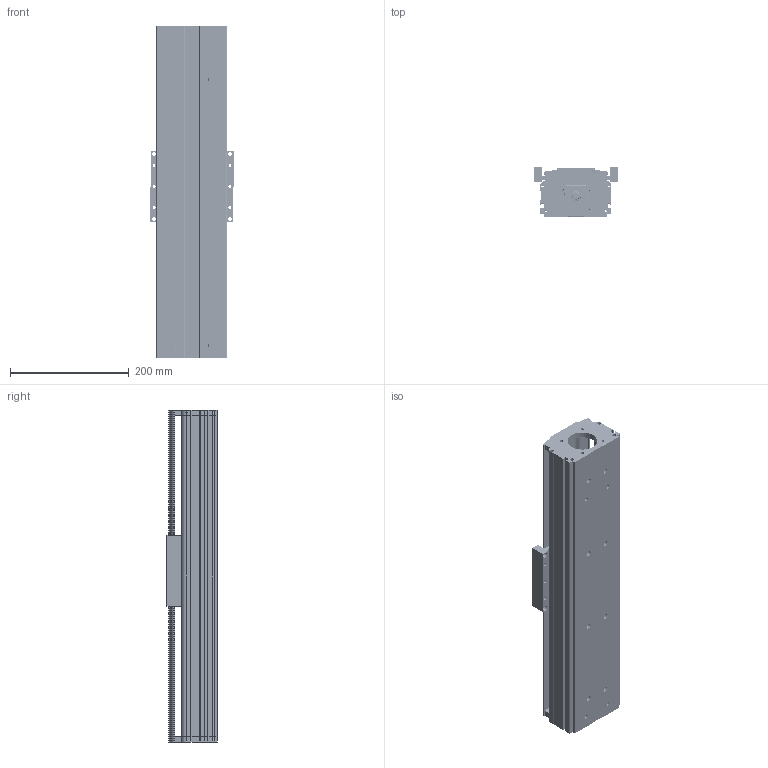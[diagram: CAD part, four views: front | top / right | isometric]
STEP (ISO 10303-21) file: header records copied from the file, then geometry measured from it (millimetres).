
FILE_DESCRIPTION (( 'STEP AP203' ), '1' );
FILE_NAME ('CF120-P350.STEP', '2016-02-22T08:33:59', ( 'Sky123.Org' ), ( 'Sky123.Org' ), 'SwSTEP 2.0', 'SolidWorks 2015', '' );
FILE_SCHEMA (( 'CONFIG_CONTROL_DESIGN' ));
Length unit declared in the file: millimetre
Products named in the file (15): CF120-P350; EK12; EF12; CF120賑雄啣; cf120-60萇儂釱; CF120蹟譫釱; CF120傷裔耜啣-sigan; EGR15-P600-880; EGH-15-CABZnew; EK12+EF12-P600-744; SFU1605-3蹟譫; CF120-P350-540臏倰第; CF120-P350-560裔啣; 粣創結啣
Assembly tree (18 placements, depth 3):
  CF120-P350
    cf120-60萇儂釱
    CF120傷裔耜啣-sigan
    EGH-15-CABZnew  x4
    SFU1605-3蹟譫
    EK12
      EK12
      粣創結啣
    EF12
    CF120賑雄啣
    CF120蹟譫釱
    EGR15-P600-880  x2
    EK12+EF12-P600-744
    CF120-P350-540臏倰第
    CF120-P350-560裔啣
Bounding box: 140 x 84.5 x 560 mm (x, y, z)
Volume: 2191543.5 mm3; surface area: 779139.6 mm2
Topology: 13 solids, 65 shells, 7333 faces, 27644 edges, 18993 vertices
Faces by surface type: plane 3555, bspline 2351, cylinder 1037, cone 150, torus 136, sphere 104
Entity records: 132247 total; most frequent: CARTESIAN_POINT 58344, ORIENTED_EDGE 15810, DIRECTION 12353, EDGE_CURVE 9029, VERTEX_POINT 6146, LINE 5243, VECTOR 5243, AXIS2_PLACEMENT_3D 3555
